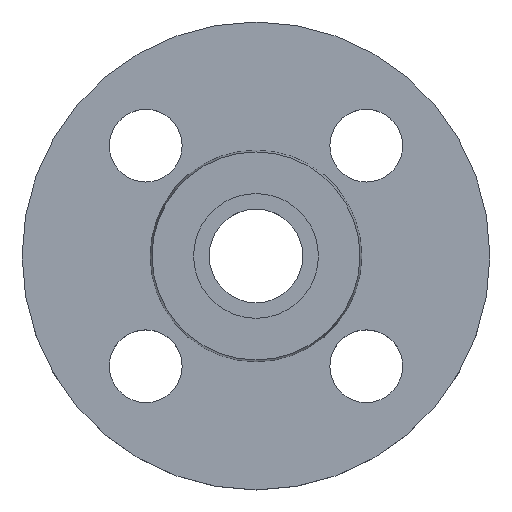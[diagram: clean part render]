
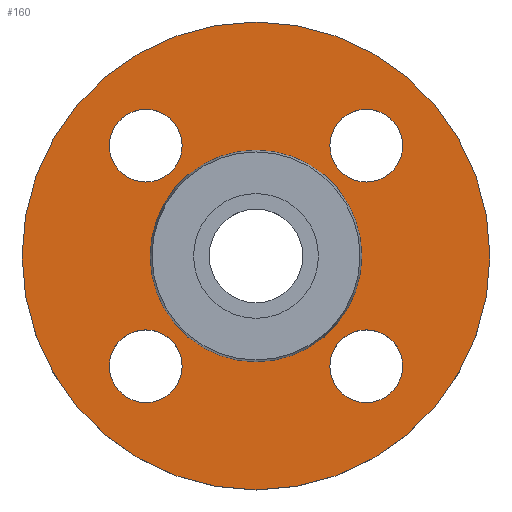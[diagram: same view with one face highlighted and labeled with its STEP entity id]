
A CAD part, top view. The second image highlights one B-rep face of the part: STEP entity #160.
In plain terms, the highlighted planar face has unit normal (0, 0, 1).
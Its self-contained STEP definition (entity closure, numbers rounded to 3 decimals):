
#3 = CIRCLE ( 'NONE', #395, 45. ) ;
#7 = CARTESIAN_POINT ( 'NONE',  ( -20.353, 0., -2. ) ) ;
#11 = CARTESIAN_POINT ( 'NONE',  ( -28.213, 21.213, -2. ) ) ;
#16 = VERTEX_POINT ( 'NONE', #11 ) ;
#19 = EDGE_LOOP ( 'NONE', ( #139, #141 ) ) ;
#21 = CIRCLE ( 'NONE', #355, 7. ) ;
#23 = CARTESIAN_POINT ( 'NONE',  ( 0., 0., -2. ) ) ;
#26 = EDGE_LOOP ( 'NONE', ( #134, #137 ) ) ;
#27 = EDGE_LOOP ( 'NONE', ( #184, #145 ) ) ;
#29 = DIRECTION ( 'NONE',  ( 0., 0., -1. ) ) ;
#30 = VERTEX_POINT ( 'NONE', #7 ) ;
#36 = DIRECTION ( 'NONE',  ( -1., 0., 0. ) ) ;
#38 = EDGE_LOOP ( 'NONE', ( #131, #135 ) ) ;
#44 = VERTEX_POINT ( 'NONE', #469 ) ;
#48 = CIRCLE ( 'NONE', #472, 7. ) ;
#50 = VERTEX_POINT ( 'NONE', #321 ) ;
#55 = VERTEX_POINT ( 'NONE', #663 ) ;
#58 = VERTEX_POINT ( 'NONE', #661 ) ;
#59 = VERTEX_POINT ( 'NONE', #660 ) ;
#78 = VERTEX_POINT ( 'NONE', #636 ) ;
#81 = VERTEX_POINT ( 'NONE', #631 ) ;
#83 = EDGE_CURVE ( 'NONE', #44, #78, #48, .T. ) ;
#131 = ORIENTED_EDGE ( 'NONE', *, *, #591, .T. ) ;
#134 = ORIENTED_EDGE ( 'NONE', *, *, #403, .T. ) ;
#135 = ORIENTED_EDGE ( 'NONE', *, *, #468, .T. ) ;
#136 = ORIENTED_EDGE ( 'NONE', *, *, #447, .T. ) ;
#137 = ORIENTED_EDGE ( 'NONE', *, *, #651, .T. ) ;
#139 = ORIENTED_EDGE ( 'NONE', *, *, #235, .T. ) ;
#140 = ORIENTED_EDGE ( 'NONE', *, *, #616, .T. ) ;
#141 = ORIENTED_EDGE ( 'NONE', *, *, #83, .T. ) ;
#143 = VERTEX_POINT ( 'NONE', #608 ) ;
#145 = ORIENTED_EDGE ( 'NONE', *, *, #247, .F. ) ;
#148 = ORIENTED_EDGE ( 'NONE', *, *, #328, .T. ) ;
#149 = EDGE_LOOP ( 'NONE', ( #173, #148 ) ) ;
#160 = ADVANCED_FACE ( 'NONE', ( #598, #597, #594, #592, #536, #318 ), #333, .T. ) ;
#170 = CIRCLE ( 'NONE', #480, 7. ) ;
#173 = ORIENTED_EDGE ( 'NONE', *, *, #508, .T. ) ;
#184 = ORIENTED_EDGE ( 'NONE', *, *, #579, .F. ) ;
#187 = CARTESIAN_POINT ( 'NONE',  ( -21.213, -21.213, -2. ) ) ;
#191 = DIRECTION ( 'NONE',  ( 0., 0., -1. ) ) ;
#192 = DIRECTION ( 'NONE',  ( 1., 0., 0. ) ) ;
#198 = CIRCLE ( 'NONE', #539, 45. ) ;
#208 = CARTESIAN_POINT ( 'NONE',  ( -21.213, 21.213, -2. ) ) ;
#209 = CIRCLE ( 'NONE', #545, 7. ) ;
#217 = AXIS2_PLACEMENT_3D ( 'NONE', #23, #29, #36 ) ;
#219 = DIRECTION ( 'NONE',  ( 0., 0., -1. ) ) ;
#220 = DIRECTION ( 'NONE',  ( 1., 0., 0. ) ) ;
#222 = CARTESIAN_POINT ( 'NONE',  ( 21.213, -21.213, -2. ) ) ;
#224 = DIRECTION ( 'NONE',  ( 0., 0., -1. ) ) ;
#227 = DIRECTION ( 'NONE',  ( 1., 0., 0. ) ) ;
#231 = CIRCLE ( 'NONE', #399, 7. ) ;
#234 = AXIS2_PLACEMENT_3D ( 'NONE', #583, #584, #585 ) ;
#235 = EDGE_CURVE ( 'NONE', #78, #44, #209, .T. ) ;
#241 = AXIS2_PLACEMENT_3D ( 'NONE', #632, #635, #638 ) ;
#243 = CIRCLE ( 'NONE', #234, 7. ) ;
#247 = EDGE_CURVE ( 'NONE', #256, #277, #198, .T. ) ;
#256 = VERTEX_POINT ( 'NONE', #367 ) ;
#275 = EDGE_LOOP ( 'NONE', ( #136, #140 ) ) ;
#277 = VERTEX_POINT ( 'NONE', #441 ) ;
#313 = CARTESIAN_POINT ( 'NONE',  ( 0., 0., -2. ) ) ;
#315 = DIRECTION ( 'NONE',  ( 0., 0., -1. ) ) ;
#316 = DIRECTION ( 'NONE',  ( -1., 0., 0. ) ) ;
#318 = FACE_OUTER_BOUND ( 'NONE', #27, .T. ) ;
#321 = CARTESIAN_POINT ( 'NONE',  ( 28.213, -21.213, -2. ) ) ;
#328 = EDGE_CURVE ( 'NONE', #81, #30, #517, .T. ) ;
#333 = PLANE ( 'NONE',  #354 ) ;
#354 = AXIS2_PLACEMENT_3D ( 'NONE', #484, #476, #442 ) ;
#355 = AXIS2_PLACEMENT_3D ( 'NONE', #208, #219, #220 ) ;
#367 = CARTESIAN_POINT ( 'NONE',  ( -45., 0., -2. ) ) ;
#371 = DIRECTION ( 'NONE',  ( -1., 0., 0. ) ) ;
#374 = DIRECTION ( 'NONE',  ( 0., 0., -1. ) ) ;
#376 = CARTESIAN_POINT ( 'NONE',  ( 0., 0., -2. ) ) ;
#381 = AXIS2_PLACEMENT_3D ( 'NONE', #313, #315, #316 ) ;
#393 = DIRECTION ( 'NONE',  ( 1., 0., 0. ) ) ;
#394 = DIRECTION ( 'NONE',  ( 0., 0., -1. ) ) ;
#395 = AXIS2_PLACEMENT_3D ( 'NONE', #520, #526, #528 ) ;
#399 = AXIS2_PLACEMENT_3D ( 'NONE', #222, #224, #227 ) ;
#400 = CARTESIAN_POINT ( 'NONE',  ( 21.213, 21.213, -2. ) ) ;
#403 = EDGE_CURVE ( 'NONE', #59, #143, #498, .T. ) ;
#404 = AXIS2_PLACEMENT_3D ( 'NONE', #187, #191, #192 ) ;
#409 = CIRCLE ( 'NONE', #241, 7. ) ;
#441 = CARTESIAN_POINT ( 'NONE',  ( 45., 0., -2. ) ) ;
#442 = DIRECTION ( 'NONE',  ( 1., 0., 0. ) ) ;
#447 = EDGE_CURVE ( 'NONE', #58, #16, #21, .T. ) ;
#468 = EDGE_CURVE ( 'NONE', #55, #50, #231, .T. ) ;
#469 = CARTESIAN_POINT ( 'NONE',  ( 14.213, 21.213, -2. ) ) ;
#472 = AXIS2_PLACEMENT_3D ( 'NONE', #629, #628, #625 ) ;
#476 = DIRECTION ( 'NONE',  ( 0., 0., 1. ) ) ;
#480 = AXIS2_PLACEMENT_3D ( 'NONE', #552, #554, #555 ) ;
#484 = CARTESIAN_POINT ( 'NONE',  ( 20.353, 0., -2. ) ) ;
#498 = CIRCLE ( 'NONE', #404, 7. ) ;
#508 = EDGE_CURVE ( 'NONE', #30, #81, #547, .T. ) ;
#517 = CIRCLE ( 'NONE', #217, 20.353 ) ;
#520 = CARTESIAN_POINT ( 'NONE',  ( 0., 0., -2. ) ) ;
#526 = DIRECTION ( 'NONE',  ( 0., 0., -1. ) ) ;
#528 = DIRECTION ( 'NONE',  ( -1., 0., 0. ) ) ;
#536 = FACE_BOUND ( 'NONE', #149, .T. ) ;
#539 = AXIS2_PLACEMENT_3D ( 'NONE', #376, #374, #371 ) ;
#545 = AXIS2_PLACEMENT_3D ( 'NONE', #400, #394, #393 ) ;
#547 = CIRCLE ( 'NONE', #381, 20.353 ) ;
#552 = CARTESIAN_POINT ( 'NONE',  ( 21.213, -21.213, -2. ) ) ;
#554 = DIRECTION ( 'NONE',  ( 0., 0., -1. ) ) ;
#555 = DIRECTION ( 'NONE',  ( 1., 0., 0. ) ) ;
#579 = EDGE_CURVE ( 'NONE', #277, #256, #3, .T. ) ;
#583 = CARTESIAN_POINT ( 'NONE',  ( -21.213, 21.213, -2. ) ) ;
#584 = DIRECTION ( 'NONE',  ( 0., 0., -1. ) ) ;
#585 = DIRECTION ( 'NONE',  ( 1., 0., 0. ) ) ;
#591 = EDGE_CURVE ( 'NONE', #50, #55, #170, .T. ) ;
#592 = FACE_BOUND ( 'NONE', #19, .T. ) ;
#594 = FACE_BOUND ( 'NONE', #275, .T. ) ;
#597 = FACE_BOUND ( 'NONE', #26, .T. ) ;
#598 = FACE_BOUND ( 'NONE', #38, .T. ) ;
#608 = CARTESIAN_POINT ( 'NONE',  ( -28.213, -21.213, -2. ) ) ;
#616 = EDGE_CURVE ( 'NONE', #16, #58, #243, .T. ) ;
#625 = DIRECTION ( 'NONE',  ( 1., 0., 0. ) ) ;
#628 = DIRECTION ( 'NONE',  ( 0., 0., -1. ) ) ;
#629 = CARTESIAN_POINT ( 'NONE',  ( 21.213, 21.213, -2. ) ) ;
#631 = CARTESIAN_POINT ( 'NONE',  ( 20.353, 0., -2. ) ) ;
#632 = CARTESIAN_POINT ( 'NONE',  ( -21.213, -21.213, -2. ) ) ;
#635 = DIRECTION ( 'NONE',  ( 0., 0., -1. ) ) ;
#636 = CARTESIAN_POINT ( 'NONE',  ( 28.213, 21.213, -2. ) ) ;
#638 = DIRECTION ( 'NONE',  ( 1., 0., 0. ) ) ;
#651 = EDGE_CURVE ( 'NONE', #143, #59, #409, .T. ) ;
#660 = CARTESIAN_POINT ( 'NONE',  ( -14.213, -21.213, -2. ) ) ;
#661 = CARTESIAN_POINT ( 'NONE',  ( -14.213, 21.213, -2. ) ) ;
#663 = CARTESIAN_POINT ( 'NONE',  ( 14.213, -21.213, -2. ) ) ;
